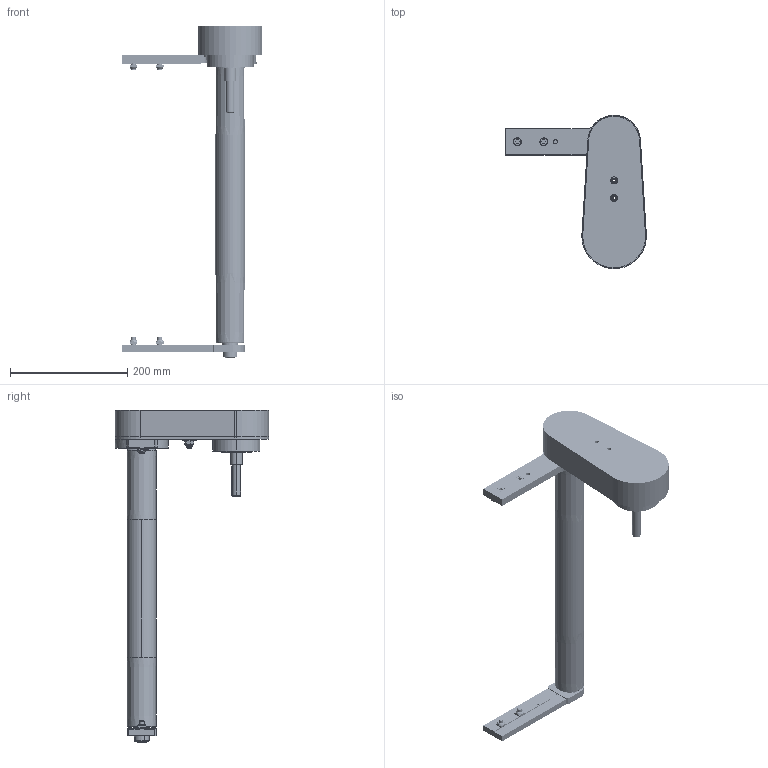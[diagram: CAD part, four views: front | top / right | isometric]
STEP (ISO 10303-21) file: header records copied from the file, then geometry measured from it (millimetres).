
FILE_DESCRIPTION (( 'STEP AP203' ), '1' );
FILE_NAME ('084.050.KTC.30.450.STEP', '2019-07-29T13:14:24', ( '' ), ( '' ), 'SwSTEP 2.0', 'SolidWorks 2018', '' );
FILE_SCHEMA (( 'CONFIG_CONTROL_DESIGN' ));
Length unit declared in the file: millimetre
Products named in the file (26): 084.815.129_Default<A macchina>; 084.802.021; 084.050.KTC.30.450; 084.813.006; 084.813.001; DADI ESAGONALI AUTOBLOCCANTI UNI 7473 INOX_M8 UNI 7473 INOX; 084.802.017_084.802.017; CHIAVETTE_A 5x5x50 UNI 6604-69; 084.802.034_084.802.034; 084.807.001_084.807.001; 084.302.000 DADI ALUSIC 13x13_084.302.004; 084.803.012; 084.810.005; 084.807.002_084.807.002; RONDELLE FASCIA LARGA UNI 6593_8.4x24 UNI 6593; 084.810.004; 084.301.000 VITI ALUSIC_084.301.003; 084.809.001; 084.810.001; Circlip DIN 471 - 8 x 0.8_Circlip DIN 471 - 8 x 0.8; 084.810.010; CUSCINETTI A SFERE_608-2RS; 084.803.014; 084.809.004; 084.811.004; 084.809.003
Assembly tree (34 placements, depth 3):
  084.050.KTC.30.450
    084.815.129_Default<A macchina>
    084.811.004
    084.813.001
    084.810.001  x2
    084.802.034_084.802.034
    084.802.017_084.802.017
    084.807.001_084.807.001
    084.807.002_084.807.002
    084.803.014  x2
    084.809.004
    084.813.006
    084.802.021
    084.803.012
    084.809.001
    084.809.003
    084.810.005
      084.810.010
      084.810.004
      CUSCINETTI A SFERE_608-2RS  x2
      Circlip DIN 471 - 8 x 0.8_Circlip DIN 471 - 8 x 0.8
      RONDELLE FASCIA LARGA UNI 6593_8.4x24 UNI 6593
      DADI ESAGONALI AUTOBLOCCANTI UNI 7473 INOX_M8 UNI 7473 INOX
    084.301.000 VITI ALUSIC_084.301.003  x4
    084.302.000 DADI ALUSIC 13x13_084.302.004  x4
    CHIAVETTE_A 5x5x50 UNI 6604-69
Bounding box: 240 x 261.5 x 566 mm (x, y, z)
Volume: 1062702.6 mm3; surface area: 604531.8 mm2
Topology: 63 solids, 64 shells, 2916 faces, 6878 edges, 4397 vertices
Faces by surface type: cylinder 1439, plane 732, bspline 468, cone 174, torus 94, sphere 9
Entity records: 83345 total; most frequent: CARTESIAN_POINT 18784, DIRECTION 14023, ORIENTED_EDGE 12154, EDGE_CURVE 6077, AXIS2_PLACEMENT_3D 5927, VERTEX_POINT 3874, CIRCLE 3743, EDGE_LOOP 3193
